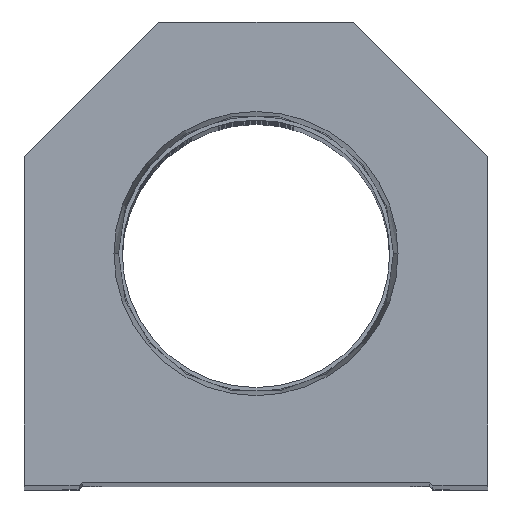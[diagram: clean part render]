
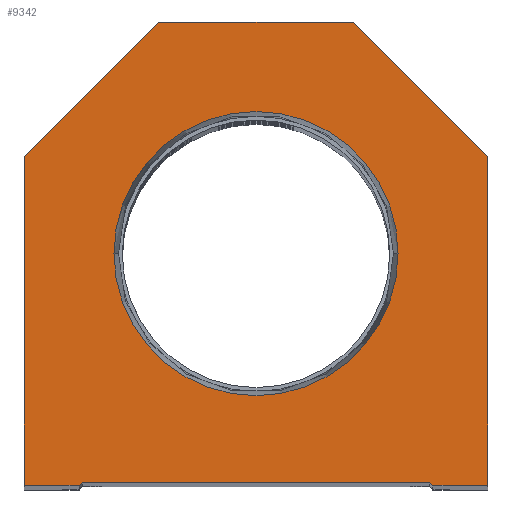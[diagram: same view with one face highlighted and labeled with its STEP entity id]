
A CAD part, top view. The second image highlights one B-rep face of the part: STEP entity #9342.
In plain terms, the highlighted planar face has unit normal (0, 0, 1).
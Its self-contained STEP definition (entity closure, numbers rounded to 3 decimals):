
#78 = EDGE_CURVE ( 'NONE', #17638, #15845, #19926, .T. ) ;
#98 = DIRECTION ( 'NONE',  ( 1., 0., 0. ) ) ;
#314 = EDGE_CURVE ( 'NONE', #20679, #18408, #22168, .T. ) ;
#437 = LINE ( 'NONE', #4327, #4373 ) ;
#1459 = CARTESIAN_POINT ( 'NONE',  ( 0., 0., 0. ) ) ;
#1756 = VECTOR ( 'NONE', #11875, 1000. ) ;
#2206 = VERTEX_POINT ( 'NONE', #15660 ) ;
#2286 = EDGE_CURVE ( 'NONE', #14002, #11524, #7767, .T. ) ;
#2985 = CARTESIAN_POINT ( 'NONE',  ( 28.6, 0., 0. ) ) ;
#3189 = CARTESIAN_POINT ( 'NONE',  ( 14.55, 14.55, 0. ) ) ;
#3255 = ORIENTED_EDGE ( 'NONE', *, *, #17767, .F. ) ;
#3434 = DIRECTION ( 'NONE',  ( 1., 0., 0. ) ) ;
#3641 = CARTESIAN_POINT ( 'NONE',  ( -28.6, 0., 0. ) ) ;
#3890 = VECTOR ( 'NONE', #4749, 1000. ) ;
#3946 = ORIENTED_EDGE ( 'NONE', *, *, #10596, .F. ) ;
#4101 = EDGE_CURVE ( 'NONE', #5616, #14002, #4859, .T. ) ;
#4327 = CARTESIAN_POINT ( 'NONE',  ( 16., 76.2, 0. ) ) ;
#4373 = VECTOR ( 'NONE', #16155, 1000. ) ;
#4692 = LINE ( 'NONE', #20296, #20638 ) ;
#4749 = DIRECTION ( 'NONE',  ( 0.707, -0.707, 0. ) ) ;
#4859 = LINE ( 'NONE', #20472, #16658 ) ;
#4914 = CIRCLE ( 'NONE', #22149, 23.374 ) ;
#4935 = CARTESIAN_POINT ( 'NONE',  ( -28.6, 0.5, 0. ) ) ;
#5087 = DIRECTION ( 'NONE',  ( -0.707, -0.707, 0. ) ) ;
#5135 = EDGE_CURVE ( 'NONE', #18408, #17638, #4692, .T. ) ;
#5542 = ORIENTED_EDGE ( 'NONE', *, *, #4101, .T. ) ;
#5616 = VERTEX_POINT ( 'NONE', #21458 ) ;
#5623 = CARTESIAN_POINT ( 'NONE',  ( 38.1, 54.1, 0. ) ) ;
#6364 = CARTESIAN_POINT ( 'NONE',  ( 29.1, 0., 0. ) ) ;
#6576 = ORIENTED_EDGE ( 'NONE', *, *, #16768, .T. ) ;
#7222 = AXIS2_PLACEMENT_3D ( 'NONE', #1459, #15154, #98 ) ;
#7456 = CARTESIAN_POINT ( 'NONE',  ( -38.1, 0., 0. ) ) ;
#7767 = LINE ( 'NONE', #7456, #9500 ) ;
#8342 = DIRECTION ( 'NONE',  ( 1., 0., 0. ) ) ;
#8364 = AXIS2_PLACEMENT_3D ( 'NONE', #11833, #17617, #15099 ) ;
#8431 = DIRECTION ( 'NONE',  ( 1., 0., 0. ) ) ;
#8528 = FACE_BOUND ( 'NONE', #18619, .T. ) ;
#8615 = CARTESIAN_POINT ( 'NONE',  ( -14.55, 14.55, 0. ) ) ;
#9342 = ADVANCED_FACE ( 'NONE', ( #8528, #17142 ), #18724, .T. ) ;
#9500 = VECTOR ( 'NONE', #11163, 1000. ) ;
#9691 = ORIENTED_EDGE ( 'NONE', *, *, #15506, .T. ) ;
#9789 = VERTEX_POINT ( 'NONE', #15130 ) ;
#10033 = CARTESIAN_POINT ( 'NONE',  ( 0., 38.1, 0. ) ) ;
#10256 = EDGE_CURVE ( 'NONE', #10557, #5616, #437, .T. ) ;
#10392 = CARTESIAN_POINT ( 'NONE',  ( -23.374, 38.1, 0. ) ) ;
#10557 = VERTEX_POINT ( 'NONE', #16985 ) ;
#10596 = EDGE_CURVE ( 'NONE', #17448, #2206, #16590, .T. ) ;
#11163 = DIRECTION ( 'NONE',  ( 0., -1., 0. ) ) ;
#11265 = EDGE_LOOP ( 'NONE', ( #6576, #15645, #12804, #11447, #14395, #21451, #9691, #13715, #5542, #16536 ) ) ;
#11383 = VECTOR ( 'NONE', #13902, 1000. ) ;
#11447 = ORIENTED_EDGE ( 'NONE', *, *, #78, .T. ) ;
#11524 = VERTEX_POINT ( 'NONE', #14097 ) ;
#11833 = CARTESIAN_POINT ( 'NONE',  ( 0., 38.1, 0. ) ) ;
#11875 = DIRECTION ( 'NONE',  ( 0.707, 0.707, 0. ) ) ;
#12804 = ORIENTED_EDGE ( 'NONE', *, *, #5135, .T. ) ;
#12891 = CARTESIAN_POINT ( 'NONE',  ( 38.1, 0., 0. ) ) ;
#13529 = CARTESIAN_POINT ( 'NONE',  ( 28.6, 0.5, 0. ) ) ;
#13715 = ORIENTED_EDGE ( 'NONE', *, *, #10256, .T. ) ;
#13902 = DIRECTION ( 'NONE',  ( 1., 0., 0. ) ) ;
#14002 = VERTEX_POINT ( 'NONE', #19021 ) ;
#14097 = CARTESIAN_POINT ( 'NONE',  ( -38.1, 0., 0. ) ) ;
#14130 = LINE ( 'NONE', #3641, #11383 ) ;
#14319 = DIRECTION ( 'NONE',  ( -0.707, 0.707, 0. ) ) ;
#14395 = ORIENTED_EDGE ( 'NONE', *, *, #20655, .T. ) ;
#15039 = VECTOR ( 'NONE', #21382, 1000. ) ;
#15099 = DIRECTION ( 'NONE',  ( 1., 0., 0. ) ) ;
#15130 = CARTESIAN_POINT ( 'NONE',  ( 38.1, 0., 0. ) ) ;
#15154 = DIRECTION ( 'NONE',  ( 0., 0., 1. ) ) ;
#15356 = CARTESIAN_POINT ( 'NONE',  ( -29.1, 0., 0. ) ) ;
#15506 = EDGE_CURVE ( 'NONE', #21304, #10557, #21012, .T. ) ;
#15645 = ORIENTED_EDGE ( 'NONE', *, *, #314, .T. ) ;
#15660 = CARTESIAN_POINT ( 'NONE',  ( 23.374, 38.1, 0. ) ) ;
#15845 = VERTEX_POINT ( 'NONE', #6364 ) ;
#16155 = DIRECTION ( 'NONE',  ( -1., 0., 0. ) ) ;
#16536 = ORIENTED_EDGE ( 'NONE', *, *, #2286, .T. ) ;
#16590 = CIRCLE ( 'NONE', #8364, 23.374 ) ;
#16658 = VECTOR ( 'NONE', #5087, 1000. ) ;
#16768 = EDGE_CURVE ( 'NONE', #11524, #20679, #14130, .T. ) ;
#16862 = DIRECTION ( 'NONE',  ( 0., 0., 1. ) ) ;
#16917 = LINE ( 'NONE', #2985, #18635 ) ;
#16985 = CARTESIAN_POINT ( 'NONE',  ( 16., 76.2, 0. ) ) ;
#17142 = FACE_OUTER_BOUND ( 'NONE', #11265, .T. ) ;
#17448 = VERTEX_POINT ( 'NONE', #10392 ) ;
#17617 = DIRECTION ( 'NONE',  ( 0., 0., 1. ) ) ;
#17638 = VERTEX_POINT ( 'NONE', #13529 ) ;
#17767 = EDGE_CURVE ( 'NONE', #2206, #17448, #4914, .T. ) ;
#18143 = EDGE_CURVE ( 'NONE', #9789, #21304, #19598, .T. ) ;
#18408 = VERTEX_POINT ( 'NONE', #4935 ) ;
#18619 = EDGE_LOOP ( 'NONE', ( #3255, #3946 ) ) ;
#18635 = VECTOR ( 'NONE', #3434, 1000. ) ;
#18724 = PLANE ( 'NONE',  #7222 ) ;
#19021 = CARTESIAN_POINT ( 'NONE',  ( -38.1, 54.1, 0. ) ) ;
#19598 = LINE ( 'NONE', #12891, #15039 ) ;
#19926 = LINE ( 'NONE', #3189, #3890 ) ;
#20296 = CARTESIAN_POINT ( 'NONE',  ( -28.6, 0.5, 0. ) ) ;
#20472 = CARTESIAN_POINT ( 'NONE',  ( -38.1, 54.1, 0. ) ) ;
#20638 = VECTOR ( 'NONE', #8431, 1000. ) ;
#20655 = EDGE_CURVE ( 'NONE', #15845, #9789, #16917, .T. ) ;
#20679 = VERTEX_POINT ( 'NONE', #15356 ) ;
#20977 = VECTOR ( 'NONE', #14319, 1000. ) ;
#21012 = LINE ( 'NONE', #5623, #20977 ) ;
#21194 = CARTESIAN_POINT ( 'NONE',  ( 38.1, 54.1, 0. ) ) ;
#21304 = VERTEX_POINT ( 'NONE', #21194 ) ;
#21382 = DIRECTION ( 'NONE',  ( 0., 1., 0. ) ) ;
#21451 = ORIENTED_EDGE ( 'NONE', *, *, #18143, .T. ) ;
#21458 = CARTESIAN_POINT ( 'NONE',  ( -16., 76.2, 0. ) ) ;
#22149 = AXIS2_PLACEMENT_3D ( 'NONE', #10033, #16862, #8342 ) ;
#22168 = LINE ( 'NONE', #8615, #1756 ) ;
